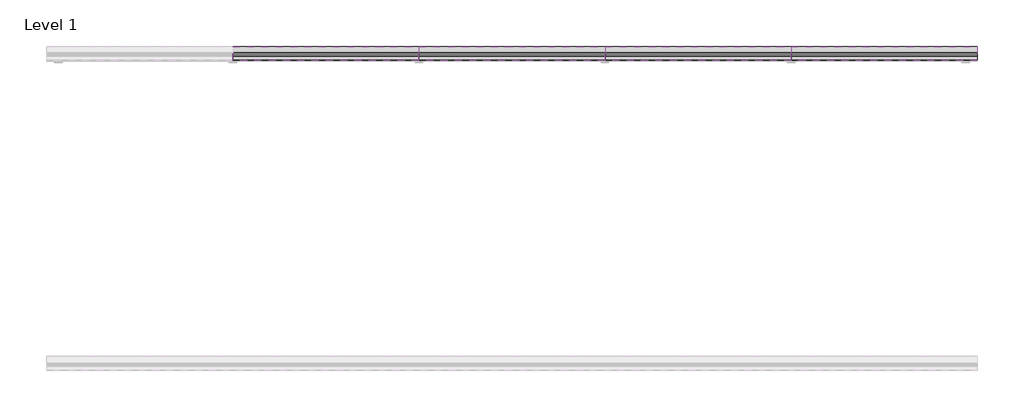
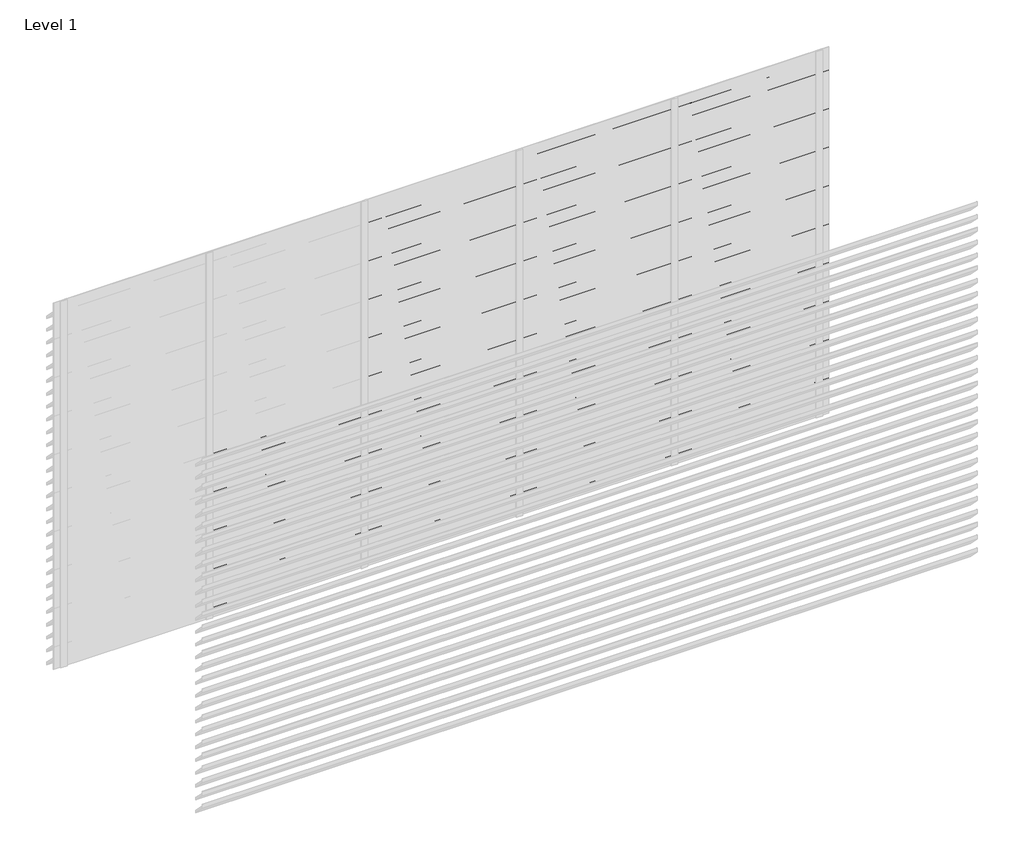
# One storey, part 8 of 8: 97 proxies.
"""IFC4 building model written with IfcOpenShell, lengths in millimetres."""

from ifc_helpers import new_model, si_unit, frame, origin, place, context, project, spatial, polyline, outline, extrude, element, save

model = new_model("IFC4")

# Units and contexts
model_context = context("Model", 3, world=origin())
ifc_project = project(units=[si_unit("LENGTHUNIT", "METRE", prefix="MILLI")], contexts=[model_context])

# Site, building, storey
site = spatial("IfcSite", under=ifc_project)
building = spatial("IfcBuilding", under=site)
storey = spatial("IfcBuildingStorey", under=building, Name="Level 1", Elevation=0.0)

# Proxies
placement = place(None, origin())
element("IfcBuildingElementProxy", 1, Name="Wall Sweeps", at=placement, inside=storey, context=model_context, shape_type="SweptSolid", body=[
    extrude(outline(polyline([(5.0, 1365.0), (5.0, 1352.0), (93.0, 1264.0), (93.0, 1243.0), (3.0, 1333.0), (3.0, 1365.0), (5.0, 1365.0)])), frame((1200.0, 0.0, 0.0), z_axis=(1.0, 0.0, 0.0), x_axis=(0.0, 1.0, 0.0)), (0.0, 0.0, 1.0), 1200.0),
])
element("IfcBuildingElementProxy", 2, Name="Wall Sweeps", at=placement, inside=storey, context=model_context, shape_type="SweptSolid", body=[
    extrude(outline(polyline([(5.0, 1260.0), (5.0, 1247.0), (93.0, 1159.0), (93.0, 1138.0), (3.0, 1228.0), (3.0, 1260.0), (5.0, 1260.0)])), frame((1200.0, 0.0, 0.0), z_axis=(1.0, 0.0, 0.0), x_axis=(0.0, 1.0, 0.0)), (0.0, 0.0, 1.0), 1200.0),
])
element("IfcBuildingElementProxy", 3, Name="Wall Sweeps", at=placement, inside=storey, context=model_context, shape_type="SweptSolid", body=[
    extrude(outline(polyline([(5.0, 1155.0), (5.0, 1142.0), (93.0, 1054.0), (93.0, 1033.0), (3.0, 1123.0), (3.0, 1155.0), (5.0, 1155.0)])), frame((1200.0, 0.0, 0.0), z_axis=(1.0, 0.0, 0.0), x_axis=(0.0, 1.0, 0.0)), (0.0, 0.0, 1.0), 1200.0),
])
element("IfcBuildingElementProxy", 4, Name="Wall Sweeps", at=placement, inside=storey, context=model_context, shape_type="SweptSolid", body=[
    extrude(outline(polyline([(5.0, 1050.0), (5.0, 1037.0), (93.0, 949.0), (93.0, 928.0), (3.0, 1018.0), (3.0, 1050.0), (5.0, 1050.0)])), frame((1200.0, 0.0, 0.0), z_axis=(1.0, 0.0, 0.0), x_axis=(0.0, 1.0, 0.0)), (0.0, 0.0, 1.0), 1200.0),
])
element("IfcBuildingElementProxy", 5, Name="Wall Sweeps", at=placement, inside=storey, context=model_context, shape_type="SweptSolid", body=[
    extrude(outline(polyline([(5.0, 945.0), (5.0, 932.0), (93.0, 844.0), (93.0, 823.0), (3.0, 913.0), (3.0, 945.0), (5.0, 945.0)])), frame((1200.0, 0.0, 0.0), z_axis=(1.0, 0.0, 0.0), x_axis=(0.0, 1.0, 0.0)), (0.0, 0.0, 1.0), 1200.0),
])
element("IfcBuildingElementProxy", 6, Name="Wall Sweeps", at=placement, inside=storey, context=model_context, shape_type="SweptSolid", body=[
    extrude(outline(polyline([(5.0, 840.0), (5.0, 827.0), (93.0, 739.0), (93.0, 718.0), (3.0, 808.0), (3.0, 840.0), (5.0, 840.0)])), frame((1200.0, 0.0, 0.0), z_axis=(1.0, 0.0, 0.0), x_axis=(0.0, 1.0, 0.0)), (0.0, 0.0, 1.0), 1200.0),
])
element("IfcBuildingElementProxy", 7, Name="Wall Sweeps", at=placement, inside=storey, context=model_context, shape_type="SweptSolid", body=[
    extrude(outline(polyline([(5.0, 735.0), (5.0, 722.0), (93.0, 634.0), (93.0, 613.0), (3.0, 703.0), (3.0, 735.0), (5.0, 735.0)])), frame((1200.0, 0.0, 0.0), z_axis=(1.0, 0.0, 0.0), x_axis=(0.0, 1.0, 0.0)), (0.0, 0.0, 1.0), 1200.0),
])
element("IfcBuildingElementProxy", 8, Name="Wall Sweeps", at=placement, inside=storey, context=model_context, shape_type="SweptSolid", body=[
    extrude(outline(polyline([(5.0, 630.0), (5.0, 617.0), (93.0, 529.0), (93.0, 508.0), (3.0, 598.0), (3.0, 630.0), (5.0, 630.0)])), frame((1200.0, 0.0, 0.0), z_axis=(1.0, 0.0, 0.0), x_axis=(0.0, 1.0, 0.0)), (0.0, 0.0, 1.0), 1200.0),
])
element("IfcBuildingElementProxy", 9, Name="Wall Sweeps", at=placement, inside=storey, context=model_context, shape_type="SweptSolid", body=[
    extrude(outline(polyline([(5.0, 525.0), (5.0, 512.0), (93.0, 424.0), (93.0, 403.0), (3.0, 493.0), (3.0, 525.0), (5.0, 525.0)])), frame((1200.0, 0.0, 0.0), z_axis=(1.0, 0.0, 0.0), x_axis=(0.0, 1.0, 0.0)), (0.0, 0.0, 1.0), 1200.0),
])
element("IfcBuildingElementProxy", 10, Name="Wall Sweeps", at=placement, inside=storey, context=model_context, shape_type="SweptSolid", body=[
    extrude(outline(polyline([(5.0, 420.0), (5.0, 407.0), (93.0, 319.0), (93.0, 298.0), (3.0, 388.0), (3.0, 420.0), (5.0, 420.0)])), frame((1200.0, 0.0, 0.0), z_axis=(1.0, 0.0, 0.0), x_axis=(0.0, 1.0, 0.0)), (0.0, 0.0, 1.0), 1200.0),
])
element("IfcBuildingElementProxy", 11, Name="Wall Sweeps", at=placement, inside=storey, context=model_context, shape_type="SweptSolid", body=[
    extrude(outline(polyline([(5.0, 315.0), (5.0, 302.0), (93.0, 214.0), (93.0, 193.0), (3.0, 283.0), (3.0, 315.0), (5.0, 315.0)])), frame((1200.0, 0.0, 0.0), z_axis=(1.0, 0.0, 0.0), x_axis=(0.0, 1.0, 0.0)), (0.0, 0.0, 1.0), 1200.0),
])
element("IfcBuildingElementProxy", 12, Name="Wall Sweeps", at=placement, inside=storey, context=model_context, shape_type="SweptSolid", body=[
    extrude(outline(polyline([(5.0, 210.0), (5.0, 197.0), (93.0, 109.0), (93.0, 88.0), (3.0, 178.0), (3.0, 210.0), (5.0, 210.0)])), frame((1200.0, 0.0, 0.0), z_axis=(1.0, 0.0, 0.0), x_axis=(0.0, 1.0, 0.0)), (0.0, 0.0, 1.0), 1200.0),
])
element("IfcBuildingElementProxy", 13, Name="Wall Sweeps", at=placement, inside=storey, context=model_context, shape_type="SweptSolid", body=[
    extrude(outline(polyline([(5.0, 105.0), (5.0, 92.0), (93.0, 4.0), (93.0, -17.0), (3.0, 73.0), (3.0, 105.0), (5.0, 105.0)])), frame((1200.0, 0.0, 0.0), z_axis=(1.0, 0.0, 0.0), x_axis=(0.0, 1.0, 0.0)), (0.0, 0.0, 1.0), 1200.0),
])
element("IfcBuildingElementProxy", 14, Name="Wall Sweeps", at=placement, inside=storey, context=model_context, shape_type="SweptSolid", body=[
    extrude(outline(polyline([(5.0, 2940.0), (5.0, 2927.0), (93.0, 2839.0), (93.0, 2818.0), (3.0, 2908.0), (3.0, 2940.0), (5.0, 2940.0)])), frame((2400.0, 0.0, 0.0), z_axis=(1.0, 0.0, 0.0), x_axis=(0.0, 1.0, 0.0)), (0.0, 0.0, 1.0), 1200.0),
])
element("IfcBuildingElementProxy", 15, Name="Wall Sweeps", at=placement, inside=storey, context=model_context, shape_type="SweptSolid", body=[
    extrude(outline(polyline([(5.0, 2835.0), (5.0, 2822.0), (93.0, 2734.0), (93.0, 2713.0), (3.0, 2803.0), (3.0, 2835.0), (5.0, 2835.0)])), frame((2400.0, 0.0, 0.0), z_axis=(1.0, 0.0, 0.0), x_axis=(0.0, 1.0, 0.0)), (0.0, 0.0, 1.0), 1200.0),
])
element("IfcBuildingElementProxy", 16, Name="Wall Sweeps", at=placement, inside=storey, context=model_context, shape_type="SweptSolid", body=[
    extrude(outline(polyline([(5.0, 2730.0), (5.0, 2717.0), (93.0, 2629.0), (93.0, 2608.0), (3.0, 2698.0), (3.0, 2730.0), (5.0, 2730.0)])), frame((2400.0, 0.0, 0.0), z_axis=(1.0, 0.0, 0.0), x_axis=(0.0, 1.0, 0.0)), (0.0, 0.0, 1.0), 1200.0),
])
element("IfcBuildingElementProxy", 17, Name="Wall Sweeps", at=placement, inside=storey, context=model_context, shape_type="SweptSolid", body=[
    extrude(outline(polyline([(5.0, 2625.0), (5.0, 2612.0), (93.0, 2524.0), (93.0, 2503.0), (3.0, 2593.0), (3.0, 2625.0), (5.0, 2625.0)])), frame((2400.0, 0.0, 0.0), z_axis=(1.0, 0.0, 0.0), x_axis=(0.0, 1.0, 0.0)), (0.0, 0.0, 1.0), 1200.0),
])
element("IfcBuildingElementProxy", 18, Name="Wall Sweeps", at=placement, inside=storey, context=model_context, shape_type="SweptSolid", body=[
    extrude(outline(polyline([(5.0, 2520.0), (5.0, 2507.0), (93.0, 2419.0), (93.0, 2398.0), (3.0, 2488.0), (3.0, 2520.0), (5.0, 2520.0)])), frame((2400.0, 0.0, 0.0), z_axis=(1.0, 0.0, 0.0), x_axis=(0.0, 1.0, 0.0)), (0.0, 0.0, 1.0), 1200.0),
])
element("IfcBuildingElementProxy", 19, Name="Wall Sweeps", at=placement, inside=storey, context=model_context, shape_type="SweptSolid", body=[
    extrude(outline(polyline([(5.0, 2415.0), (5.0, 2402.0), (93.0, 2314.0), (93.0, 2293.0), (3.0, 2383.0), (3.0, 2415.0), (5.0, 2415.0)])), frame((2400.0, 0.0, 0.0), z_axis=(1.0, 0.0, 0.0), x_axis=(0.0, 1.0, 0.0)), (0.0, 0.0, 1.0), 1200.0),
])
element("IfcBuildingElementProxy", 20, Name="Wall Sweeps", at=placement, inside=storey, context=model_context, shape_type="SweptSolid", body=[
    extrude(outline(polyline([(5.0, 2310.0), (5.0, 2297.0), (93.0, 2209.0), (93.0, 2188.0), (3.0, 2278.0), (3.0, 2310.0), (5.0, 2310.0)])), frame((2400.0, 0.0, 0.0), z_axis=(1.0, 0.0, 0.0), x_axis=(0.0, 1.0, 0.0)), (0.0, 0.0, 1.0), 1200.0),
])
element("IfcBuildingElementProxy", 21, Name="Wall Sweeps", at=placement, inside=storey, context=model_context, shape_type="SweptSolid", body=[
    extrude(outline(polyline([(5.0, 2205.0), (5.0, 2192.0), (93.0, 2104.0), (93.0, 2083.0), (3.0, 2173.0), (3.0, 2205.0), (5.0, 2205.0)])), frame((2400.0, 0.0, 0.0), z_axis=(1.0, 0.0, 0.0), x_axis=(0.0, 1.0, 0.0)), (0.0, 0.0, 1.0), 1200.0),
])
element("IfcBuildingElementProxy", 22, Name="Wall Sweeps", at=placement, inside=storey, context=model_context, shape_type="SweptSolid", body=[
    extrude(outline(polyline([(5.0, 2100.0), (5.0, 2087.0), (93.0, 1999.0), (93.0, 1978.0), (3.0, 2068.0), (3.0, 2100.0), (5.0, 2100.0)])), frame((2400.0, 0.0, 0.0), z_axis=(1.0, 0.0, 0.0), x_axis=(0.0, 1.0, 0.0)), (0.0, 0.0, 1.0), 1200.0),
])
element("IfcBuildingElementProxy", 23, Name="Wall Sweeps", at=placement, inside=storey, context=model_context, shape_type="SweptSolid", body=[
    extrude(outline(polyline([(5.0, 1995.0), (5.0, 1982.0), (93.0, 1894.0), (93.0, 1873.0), (3.0, 1963.0), (3.0, 1995.0), (5.0, 1995.0)])), frame((2400.0, 0.0, 0.0), z_axis=(1.0, 0.0, 0.0), x_axis=(0.0, 1.0, 0.0)), (0.0, 0.0, 1.0), 1200.0),
])
element("IfcBuildingElementProxy", 24, Name="Wall Sweeps", at=placement, inside=storey, context=model_context, shape_type="SweptSolid", body=[
    extrude(outline(polyline([(5.0, 1890.0), (5.0, 1877.0), (93.0, 1789.0), (93.0, 1768.0), (3.0, 1858.0), (3.0, 1890.0), (5.0, 1890.0)])), frame((2400.0, 0.0, 0.0), z_axis=(1.0, 0.0, 0.0), x_axis=(0.0, 1.0, 0.0)), (0.0, 0.0, 1.0), 1200.0),
])
element("IfcBuildingElementProxy", 25, Name="Wall Sweeps", at=placement, inside=storey, context=model_context, shape_type="SweptSolid", body=[
    extrude(outline(polyline([(5.0, 1785.0), (5.0, 1772.0), (93.0, 1684.0), (93.0, 1663.0), (3.0, 1753.0), (3.0, 1785.0), (5.0, 1785.0)])), frame((2400.0, 0.0, 0.0), z_axis=(1.0, 0.0, 0.0), x_axis=(0.0, 1.0, 0.0)), (0.0, 0.0, 1.0), 1200.0),
])
element("IfcBuildingElementProxy", 26, Name="Wall Sweeps", at=placement, inside=storey, context=model_context, shape_type="SweptSolid", body=[
    extrude(outline(polyline([(5.0, 1680.0), (5.0, 1667.0), (93.0, 1579.0), (93.0, 1558.0), (3.0, 1648.0), (3.0, 1680.0), (5.0, 1680.0)])), frame((2400.0, 0.0, 0.0), z_axis=(1.0, 0.0, 0.0), x_axis=(0.0, 1.0, 0.0)), (0.0, 0.0, 1.0), 1200.0),
])
element("IfcBuildingElementProxy", 27, Name="Wall Sweeps", at=placement, inside=storey, context=model_context, shape_type="SweptSolid", body=[
    extrude(outline(polyline([(5.0, 1575.0), (5.0, 1562.0), (93.0, 1474.0), (93.0, 1453.0), (3.0, 1543.0), (3.0, 1575.0), (5.0, 1575.0)])), frame((2400.0, 0.0, 0.0), z_axis=(1.0, 0.0, 0.0), x_axis=(0.0, 1.0, 0.0)), (0.0, 0.0, 1.0), 1200.0),
])
element("IfcBuildingElementProxy", 28, Name="Wall Sweeps", at=placement, inside=storey, context=model_context, shape_type="SweptSolid", body=[
    extrude(outline(polyline([(5.0, 1470.0), (5.0, 1457.0), (93.0, 1369.0), (93.0, 1348.0), (3.0, 1438.0), (3.0, 1470.0), (5.0, 1470.0)])), frame((2400.0, 0.0, 0.0), z_axis=(1.0, 0.0, 0.0), x_axis=(0.0, 1.0, 0.0)), (0.0, 0.0, 1.0), 1200.0),
])
element("IfcBuildingElementProxy", 29, Name="Wall Sweeps", at=placement, inside=storey, context=model_context, shape_type="SweptSolid", body=[
    extrude(outline(polyline([(5.0, 1365.0), (5.0, 1352.0), (93.0, 1264.0), (93.0, 1243.0), (3.0, 1333.0), (3.0, 1365.0), (5.0, 1365.0)])), frame((2400.0, 0.0, 0.0), z_axis=(1.0, 0.0, 0.0), x_axis=(0.0, 1.0, 0.0)), (0.0, 0.0, 1.0), 1200.0),
])
element("IfcBuildingElementProxy", 30, Name="Wall Sweeps", at=placement, inside=storey, context=model_context, shape_type="SweptSolid", body=[
    extrude(outline(polyline([(5.0, 1260.0), (5.0, 1247.0), (93.0, 1159.0), (93.0, 1138.0), (3.0, 1228.0), (3.0, 1260.0), (5.0, 1260.0)])), frame((2400.0, 0.0, 0.0), z_axis=(1.0, 0.0, 0.0), x_axis=(0.0, 1.0, 0.0)), (0.0, 0.0, 1.0), 1200.0),
])
element("IfcBuildingElementProxy", 31, Name="Wall Sweeps", at=placement, inside=storey, context=model_context, shape_type="SweptSolid", body=[
    extrude(outline(polyline([(5.0, 1155.0), (5.0, 1142.0), (93.0, 1054.0), (93.0, 1033.0), (3.0, 1123.0), (3.0, 1155.0), (5.0, 1155.0)])), frame((2400.0, 0.0, 0.0), z_axis=(1.0, 0.0, 0.0), x_axis=(0.0, 1.0, 0.0)), (0.0, 0.0, 1.0), 1200.0),
])
element("IfcBuildingElementProxy", 32, Name="Wall Sweeps", at=placement, inside=storey, context=model_context, shape_type="SweptSolid", body=[
    extrude(outline(polyline([(5.0, 1050.0), (5.0, 1037.0), (93.0, 949.0), (93.0, 928.0), (3.0, 1018.0), (3.0, 1050.0), (5.0, 1050.0)])), frame((2400.0, 0.0, 0.0), z_axis=(1.0, 0.0, 0.0), x_axis=(0.0, 1.0, 0.0)), (0.0, 0.0, 1.0), 1200.0),
])
element("IfcBuildingElementProxy", 33, Name="Wall Sweeps", at=placement, inside=storey, context=model_context, shape_type="SweptSolid", body=[
    extrude(outline(polyline([(5.0, 945.0), (5.0, 932.0), (93.0, 844.0), (93.0, 823.0), (3.0, 913.0), (3.0, 945.0), (5.0, 945.0)])), frame((2400.0, 0.0, 0.0), z_axis=(1.0, 0.0, 0.0), x_axis=(0.0, 1.0, 0.0)), (0.0, 0.0, 1.0), 1200.0),
])
element("IfcBuildingElementProxy", 34, Name="Wall Sweeps", at=placement, inside=storey, context=model_context, shape_type="SweptSolid", body=[
    extrude(outline(polyline([(5.0, 840.0), (5.0, 827.0), (93.0, 739.0), (93.0, 718.0), (3.0, 808.0), (3.0, 840.0), (5.0, 840.0)])), frame((2400.0, 0.0, 0.0), z_axis=(1.0, 0.0, 0.0), x_axis=(0.0, 1.0, 0.0)), (0.0, 0.0, 1.0), 1200.0),
])
element("IfcBuildingElementProxy", 35, Name="Wall Sweeps", at=placement, inside=storey, context=model_context, shape_type="SweptSolid", body=[
    extrude(outline(polyline([(5.0, 735.0), (5.0, 722.0), (93.0, 634.0), (93.0, 613.0), (3.0, 703.0), (3.0, 735.0), (5.0, 735.0)])), frame((2400.0, 0.0, 0.0), z_axis=(1.0, 0.0, 0.0), x_axis=(0.0, 1.0, 0.0)), (0.0, 0.0, 1.0), 1200.0),
])
element("IfcBuildingElementProxy", 36, Name="Wall Sweeps", at=placement, inside=storey, context=model_context, shape_type="SweptSolid", body=[
    extrude(outline(polyline([(5.0, 630.0), (5.0, 617.0), (93.0, 529.0), (93.0, 508.0), (3.0, 598.0), (3.0, 630.0), (5.0, 630.0)])), frame((2400.0, 0.0, 0.0), z_axis=(1.0, 0.0, 0.0), x_axis=(0.0, 1.0, 0.0)), (0.0, 0.0, 1.0), 1200.0),
])
element("IfcBuildingElementProxy", 37, Name="Wall Sweeps", at=placement, inside=storey, context=model_context, shape_type="SweptSolid", body=[
    extrude(outline(polyline([(5.0, 525.0), (5.0, 512.0), (93.0, 424.0), (93.0, 403.0), (3.0, 493.0), (3.0, 525.0), (5.0, 525.0)])), frame((2400.0, 0.0, 0.0), z_axis=(1.0, 0.0, 0.0), x_axis=(0.0, 1.0, 0.0)), (0.0, 0.0, 1.0), 1200.0),
])
element("IfcBuildingElementProxy", 38, Name="Wall Sweeps", at=placement, inside=storey, context=model_context, shape_type="SweptSolid", body=[
    extrude(outline(polyline([(5.0, 420.0), (5.0, 407.0), (93.0, 319.0), (93.0, 298.0), (3.0, 388.0), (3.0, 420.0), (5.0, 420.0)])), frame((2400.0, 0.0, 0.0), z_axis=(1.0, 0.0, 0.0), x_axis=(0.0, 1.0, 0.0)), (0.0, 0.0, 1.0), 1200.0),
])
element("IfcBuildingElementProxy", 39, Name="Wall Sweeps", at=placement, inside=storey, context=model_context, shape_type="SweptSolid", body=[
    extrude(outline(polyline([(5.0, 315.0), (5.0, 302.0), (93.0, 214.0), (93.0, 193.0), (3.0, 283.0), (3.0, 315.0), (5.0, 315.0)])), frame((2400.0, 0.0, 0.0), z_axis=(1.0, 0.0, 0.0), x_axis=(0.0, 1.0, 0.0)), (0.0, 0.0, 1.0), 1200.0),
])
element("IfcBuildingElementProxy", 40, Name="Wall Sweeps", at=placement, inside=storey, context=model_context, shape_type="SweptSolid", body=[
    extrude(outline(polyline([(5.0, 210.0), (5.0, 197.0), (93.0, 109.0), (93.0, 88.0), (3.0, 178.0), (3.0, 210.0), (5.0, 210.0)])), frame((2400.0, 0.0, 0.0), z_axis=(1.0, 0.0, 0.0), x_axis=(0.0, 1.0, 0.0)), (0.0, 0.0, 1.0), 1200.0),
])
element("IfcBuildingElementProxy", 41, Name="Wall Sweeps", at=placement, inside=storey, context=model_context, shape_type="SweptSolid", body=[
    extrude(outline(polyline([(5.0, 105.0), (5.0, 92.0), (93.0, 4.0), (93.0, -17.0), (3.0, 73.0), (3.0, 105.0), (5.0, 105.0)])), frame((2400.0, 0.0, 0.0), z_axis=(1.0, 0.0, 0.0), x_axis=(0.0, 1.0, 0.0)), (0.0, 0.0, 1.0), 1200.0),
])
element("IfcBuildingElementProxy", 42, Name="Wall Sweeps", at=placement, inside=storey, context=model_context, shape_type="SweptSolid", body=[
    extrude(outline(polyline([(5.0, 2940.0), (5.0, 2927.0), (93.0, 2839.0), (93.0, 2818.0), (3.0, 2908.0), (3.0, 2940.0), (5.0, 2940.0)])), frame((3600.0, 0.0, 0.0), z_axis=(1.0, 0.0, 0.0), x_axis=(0.0, 1.0, 0.0)), (0.0, 0.0, 1.0), 1200.0),
])
element("IfcBuildingElementProxy", 43, Name="Wall Sweeps", at=placement, inside=storey, context=model_context, shape_type="SweptSolid", body=[
    extrude(outline(polyline([(5.0, 2835.0), (5.0, 2822.0), (93.0, 2734.0), (93.0, 2713.0), (3.0, 2803.0), (3.0, 2835.0), (5.0, 2835.0)])), frame((3600.0, 0.0, 0.0), z_axis=(1.0, 0.0, 0.0), x_axis=(0.0, 1.0, 0.0)), (0.0, 0.0, 1.0), 1200.0),
])
element("IfcBuildingElementProxy", 44, Name="Wall Sweeps", at=placement, inside=storey, context=model_context, shape_type="SweptSolid", body=[
    extrude(outline(polyline([(5.0, 2730.0), (5.0, 2717.0), (93.0, 2629.0), (93.0, 2608.0), (3.0, 2698.0), (3.0, 2730.0), (5.0, 2730.0)])), frame((3600.0, 0.0, 0.0), z_axis=(1.0, 0.0, 0.0), x_axis=(0.0, 1.0, 0.0)), (0.0, 0.0, 1.0), 1200.0),
])
element("IfcBuildingElementProxy", 45, Name="Wall Sweeps", at=placement, inside=storey, context=model_context, shape_type="SweptSolid", body=[
    extrude(outline(polyline([(5.0, 2625.0), (5.0, 2612.0), (93.0, 2524.0), (93.0, 2503.0), (3.0, 2593.0), (3.0, 2625.0), (5.0, 2625.0)])), frame((3600.0, 0.0, 0.0), z_axis=(1.0, 0.0, 0.0), x_axis=(0.0, 1.0, 0.0)), (0.0, 0.0, 1.0), 1200.0),
])
element("IfcBuildingElementProxy", 46, Name="Wall Sweeps", at=placement, inside=storey, context=model_context, shape_type="SweptSolid", body=[
    extrude(outline(polyline([(5.0, 2520.0), (5.0, 2507.0), (93.0, 2419.0), (93.0, 2398.0), (3.0, 2488.0), (3.0, 2520.0), (5.0, 2520.0)])), frame((3600.0, 0.0, 0.0), z_axis=(1.0, 0.0, 0.0), x_axis=(0.0, 1.0, 0.0)), (0.0, 0.0, 1.0), 1200.0),
])
element("IfcBuildingElementProxy", 47, Name="Wall Sweeps", at=placement, inside=storey, context=model_context, shape_type="SweptSolid", body=[
    extrude(outline(polyline([(5.0, 2415.0), (5.0, 2402.0), (93.0, 2314.0), (93.0, 2293.0), (3.0, 2383.0), (3.0, 2415.0), (5.0, 2415.0)])), frame((3600.0, 0.0, 0.0), z_axis=(1.0, 0.0, 0.0), x_axis=(0.0, 1.0, 0.0)), (0.0, 0.0, 1.0), 1200.0),
])
element("IfcBuildingElementProxy", 48, Name="Wall Sweeps", at=placement, inside=storey, context=model_context, shape_type="SweptSolid", body=[
    extrude(outline(polyline([(5.0, 2310.0), (5.0, 2297.0), (93.0, 2209.0), (93.0, 2188.0), (3.0, 2278.0), (3.0, 2310.0), (5.0, 2310.0)])), frame((3600.0, 0.0, 0.0), z_axis=(1.0, 0.0, 0.0), x_axis=(0.0, 1.0, 0.0)), (0.0, 0.0, 1.0), 1200.0),
])
element("IfcBuildingElementProxy", 49, Name="Wall Sweeps", at=placement, inside=storey, context=model_context, shape_type="SweptSolid", body=[
    extrude(outline(polyline([(5.0, 2205.0), (5.0, 2192.0), (93.0, 2104.0), (93.0, 2083.0), (3.0, 2173.0), (3.0, 2205.0), (5.0, 2205.0)])), frame((3600.0, 0.0, 0.0), z_axis=(1.0, 0.0, 0.0), x_axis=(0.0, 1.0, 0.0)), (0.0, 0.0, 1.0), 1200.0),
])
element("IfcBuildingElementProxy", 50, Name="Wall Sweeps", at=placement, inside=storey, context=model_context, shape_type="SweptSolid", body=[
    extrude(outline(polyline([(5.0, 2100.0), (5.0, 2087.0), (93.0, 1999.0), (93.0, 1978.0), (3.0, 2068.0), (3.0, 2100.0), (5.0, 2100.0)])), frame((3600.0, 0.0, 0.0), z_axis=(1.0, 0.0, 0.0), x_axis=(0.0, 1.0, 0.0)), (0.0, 0.0, 1.0), 1200.0),
])
element("IfcBuildingElementProxy", 51, Name="Wall Sweeps", at=placement, inside=storey, context=model_context, shape_type="SweptSolid", body=[
    extrude(outline(polyline([(5.0, 1995.0), (5.0, 1982.0), (93.0, 1894.0), (93.0, 1873.0), (3.0, 1963.0), (3.0, 1995.0), (5.0, 1995.0)])), frame((3600.0, 0.0, 0.0), z_axis=(1.0, 0.0, 0.0), x_axis=(0.0, 1.0, 0.0)), (0.0, 0.0, 1.0), 1200.0),
])
element("IfcBuildingElementProxy", 52, Name="Wall Sweeps", at=placement, inside=storey, context=model_context, shape_type="SweptSolid", body=[
    extrude(outline(polyline([(5.0, 1890.0), (5.0, 1877.0), (93.0, 1789.0), (93.0, 1768.0), (3.0, 1858.0), (3.0, 1890.0), (5.0, 1890.0)])), frame((3600.0, 0.0, 0.0), z_axis=(1.0, 0.0, 0.0), x_axis=(0.0, 1.0, 0.0)), (0.0, 0.0, 1.0), 1200.0),
])
element("IfcBuildingElementProxy", 53, Name="Wall Sweeps", at=placement, inside=storey, context=model_context, shape_type="SweptSolid", body=[
    extrude(outline(polyline([(5.0, 1785.0), (5.0, 1772.0), (93.0, 1684.0), (93.0, 1663.0), (3.0, 1753.0), (3.0, 1785.0), (5.0, 1785.0)])), frame((3600.0, 0.0, 0.0), z_axis=(1.0, 0.0, 0.0), x_axis=(0.0, 1.0, 0.0)), (0.0, 0.0, 1.0), 1200.0),
])
element("IfcBuildingElementProxy", 54, Name="Wall Sweeps", at=placement, inside=storey, context=model_context, shape_type="SweptSolid", body=[
    extrude(outline(polyline([(5.0, 1680.0), (5.0, 1667.0), (93.0, 1579.0), (93.0, 1558.0), (3.0, 1648.0), (3.0, 1680.0), (5.0, 1680.0)])), frame((3600.0, 0.0, 0.0), z_axis=(1.0, 0.0, 0.0), x_axis=(0.0, 1.0, 0.0)), (0.0, 0.0, 1.0), 1200.0),
])
element("IfcBuildingElementProxy", 55, Name="Wall Sweeps", at=placement, inside=storey, context=model_context, shape_type="SweptSolid", body=[
    extrude(outline(polyline([(5.0, 1575.0), (5.0, 1562.0), (93.0, 1474.0), (93.0, 1453.0), (3.0, 1543.0), (3.0, 1575.0), (5.0, 1575.0)])), frame((3600.0, 0.0, 0.0), z_axis=(1.0, 0.0, 0.0), x_axis=(0.0, 1.0, 0.0)), (0.0, 0.0, 1.0), 1200.0),
])
element("IfcBuildingElementProxy", 56, Name="Wall Sweeps", at=placement, inside=storey, context=model_context, shape_type="SweptSolid", body=[
    extrude(outline(polyline([(5.0, 1470.0), (5.0, 1457.0), (93.0, 1369.0), (93.0, 1348.0), (3.0, 1438.0), (3.0, 1470.0), (5.0, 1470.0)])), frame((3600.0, 0.0, 0.0), z_axis=(1.0, 0.0, 0.0), x_axis=(0.0, 1.0, 0.0)), (0.0, 0.0, 1.0), 1200.0),
])
element("IfcBuildingElementProxy", 57, Name="Wall Sweeps", at=placement, inside=storey, context=model_context, shape_type="SweptSolid", body=[
    extrude(outline(polyline([(5.0, 1365.0), (5.0, 1352.0), (93.0, 1264.0), (93.0, 1243.0), (3.0, 1333.0), (3.0, 1365.0), (5.0, 1365.0)])), frame((3600.0, 0.0, 0.0), z_axis=(1.0, 0.0, 0.0), x_axis=(0.0, 1.0, 0.0)), (0.0, 0.0, 1.0), 1200.0),
])
element("IfcBuildingElementProxy", 58, Name="Wall Sweeps", at=placement, inside=storey, context=model_context, shape_type="SweptSolid", body=[
    extrude(outline(polyline([(5.0, 1260.0), (5.0, 1247.0), (93.0, 1159.0), (93.0, 1138.0), (3.0, 1228.0), (3.0, 1260.0), (5.0, 1260.0)])), frame((3600.0, 0.0, 0.0), z_axis=(1.0, 0.0, 0.0), x_axis=(0.0, 1.0, 0.0)), (0.0, 0.0, 1.0), 1200.0),
])
element("IfcBuildingElementProxy", 59, Name="Wall Sweeps", at=placement, inside=storey, context=model_context, shape_type="SweptSolid", body=[
    extrude(outline(polyline([(5.0, 1155.0), (5.0, 1142.0), (93.0, 1054.0), (93.0, 1033.0), (3.0, 1123.0), (3.0, 1155.0), (5.0, 1155.0)])), frame((3600.0, 0.0, 0.0), z_axis=(1.0, 0.0, 0.0), x_axis=(0.0, 1.0, 0.0)), (0.0, 0.0, 1.0), 1200.0),
])
element("IfcBuildingElementProxy", 60, Name="Wall Sweeps", at=placement, inside=storey, context=model_context, shape_type="SweptSolid", body=[
    extrude(outline(polyline([(5.0, 1050.0), (5.0, 1037.0), (93.0, 949.0), (93.0, 928.0), (3.0, 1018.0), (3.0, 1050.0), (5.0, 1050.0)])), frame((3600.0, 0.0, 0.0), z_axis=(1.0, 0.0, 0.0), x_axis=(0.0, 1.0, 0.0)), (0.0, 0.0, 1.0), 1200.0),
])
element("IfcBuildingElementProxy", 61, Name="Wall Sweeps", at=placement, inside=storey, context=model_context, shape_type="SweptSolid", body=[
    extrude(outline(polyline([(5.0, 945.0), (5.0, 932.0), (93.0, 844.0), (93.0, 823.0), (3.0, 913.0), (3.0, 945.0), (5.0, 945.0)])), frame((3600.0, 0.0, 0.0), z_axis=(1.0, 0.0, 0.0), x_axis=(0.0, 1.0, 0.0)), (0.0, 0.0, 1.0), 1200.0),
])
element("IfcBuildingElementProxy", 62, Name="Wall Sweeps", at=placement, inside=storey, context=model_context, shape_type="SweptSolid", body=[
    extrude(outline(polyline([(5.0, 840.0), (5.0, 827.0), (93.0, 739.0), (93.0, 718.0), (3.0, 808.0), (3.0, 840.0), (5.0, 840.0)])), frame((3600.0, 0.0, 0.0), z_axis=(1.0, 0.0, 0.0), x_axis=(0.0, 1.0, 0.0)), (0.0, 0.0, 1.0), 1200.0),
])
element("IfcBuildingElementProxy", 63, Name="Wall Sweeps", at=placement, inside=storey, context=model_context, shape_type="SweptSolid", body=[
    extrude(outline(polyline([(5.0, 735.0), (5.0, 722.0), (93.0, 634.0), (93.0, 613.0), (3.0, 703.0), (3.0, 735.0), (5.0, 735.0)])), frame((3600.0, 0.0, 0.0), z_axis=(1.0, 0.0, 0.0), x_axis=(0.0, 1.0, 0.0)), (0.0, 0.0, 1.0), 1200.0),
])
element("IfcBuildingElementProxy", 64, Name="Wall Sweeps", at=placement, inside=storey, context=model_context, shape_type="SweptSolid", body=[
    extrude(outline(polyline([(5.0, 630.0), (5.0, 617.0), (93.0, 529.0), (93.0, 508.0), (3.0, 598.0), (3.0, 630.0), (5.0, 630.0)])), frame((3600.0, 0.0, 0.0), z_axis=(1.0, 0.0, 0.0), x_axis=(0.0, 1.0, 0.0)), (0.0, 0.0, 1.0), 1200.0),
])
element("IfcBuildingElementProxy", 65, Name="Wall Sweeps", at=placement, inside=storey, context=model_context, shape_type="SweptSolid", body=[
    extrude(outline(polyline([(5.0, 525.0), (5.0, 512.0), (93.0, 424.0), (93.0, 403.0), (3.0, 493.0), (3.0, 525.0), (5.0, 525.0)])), frame((3600.0, 0.0, 0.0), z_axis=(1.0, 0.0, 0.0), x_axis=(0.0, 1.0, 0.0)), (0.0, 0.0, 1.0), 1200.0),
])
element("IfcBuildingElementProxy", 66, Name="Wall Sweeps", at=placement, inside=storey, context=model_context, shape_type="SweptSolid", body=[
    extrude(outline(polyline([(5.0, 420.0), (5.0, 407.0), (93.0, 319.0), (93.0, 298.0), (3.0, 388.0), (3.0, 420.0), (5.0, 420.0)])), frame((3600.0, 0.0, 0.0), z_axis=(1.0, 0.0, 0.0), x_axis=(0.0, 1.0, 0.0)), (0.0, 0.0, 1.0), 1200.0),
])
element("IfcBuildingElementProxy", 67, Name="Wall Sweeps", at=placement, inside=storey, context=model_context, shape_type="SweptSolid", body=[
    extrude(outline(polyline([(5.0, 315.0), (5.0, 302.0), (93.0, 214.0), (93.0, 193.0), (3.0, 283.0), (3.0, 315.0), (5.0, 315.0)])), frame((3600.0, 0.0, 0.0), z_axis=(1.0, 0.0, 0.0), x_axis=(0.0, 1.0, 0.0)), (0.0, 0.0, 1.0), 1200.0),
])
element("IfcBuildingElementProxy", 68, Name="Wall Sweeps", at=placement, inside=storey, context=model_context, shape_type="SweptSolid", body=[
    extrude(outline(polyline([(5.0, 210.0), (5.0, 197.0), (93.0, 109.0), (93.0, 88.0), (3.0, 178.0), (3.0, 210.0), (5.0, 210.0)])), frame((3600.0, 0.0, 0.0), z_axis=(1.0, 0.0, 0.0), x_axis=(0.0, 1.0, 0.0)), (0.0, 0.0, 1.0), 1200.0),
])
element("IfcBuildingElementProxy", 69, Name="Wall Sweeps", at=placement, inside=storey, context=model_context, shape_type="SweptSolid", body=[
    extrude(outline(polyline([(5.0, 105.0), (5.0, 92.0), (93.0, 4.0), (93.0, -17.0), (3.0, 73.0), (3.0, 105.0), (5.0, 105.0)])), frame((3600.0, 0.0, 0.0), z_axis=(1.0, 0.0, 0.0), x_axis=(0.0, 1.0, 0.0)), (0.0, 0.0, 1.0), 1200.0),
])
element("IfcBuildingElementProxy", 70, Name="Wall Sweeps", at=placement, inside=storey, context=model_context, shape_type="SweptSolid", body=[
    extrude(outline(polyline([(5.0, 2940.0), (5.0, 2927.0), (93.0, 2839.0), (93.0, 2818.0), (3.0, 2908.0), (3.0, 2940.0), (5.0, 2940.0)])), frame((4800.0, 0.0, 0.0), z_axis=(1.0, 0.0, 0.0), x_axis=(0.0, 1.0, 0.0)), (0.0, 0.0, 1.0), 1200.0),
])
element("IfcBuildingElementProxy", 71, Name="Wall Sweeps", at=placement, inside=storey, context=model_context, shape_type="SweptSolid", body=[
    extrude(outline(polyline([(5.0, 2835.0), (5.0, 2822.0), (93.0, 2734.0), (93.0, 2713.0), (3.0, 2803.0), (3.0, 2835.0), (5.0, 2835.0)])), frame((4800.0, 0.0, 0.0), z_axis=(1.0, 0.0, 0.0), x_axis=(0.0, 1.0, 0.0)), (0.0, 0.0, 1.0), 1200.0),
])
element("IfcBuildingElementProxy", 72, Name="Wall Sweeps", at=placement, inside=storey, context=model_context, shape_type="SweptSolid", body=[
    extrude(outline(polyline([(5.0, 2730.0), (5.0, 2717.0), (93.0, 2629.0), (93.0, 2608.0), (3.0, 2698.0), (3.0, 2730.0), (5.0, 2730.0)])), frame((4800.0, 0.0, 0.0), z_axis=(1.0, 0.0, 0.0), x_axis=(0.0, 1.0, 0.0)), (0.0, 0.0, 1.0), 1200.0),
])
element("IfcBuildingElementProxy", 73, Name="Wall Sweeps", at=placement, inside=storey, context=model_context, shape_type="SweptSolid", body=[
    extrude(outline(polyline([(5.0, 2625.0), (5.0, 2612.0), (93.0, 2524.0), (93.0, 2503.0), (3.0, 2593.0), (3.0, 2625.0), (5.0, 2625.0)])), frame((4800.0, 0.0, 0.0), z_axis=(1.0, 0.0, 0.0), x_axis=(0.0, 1.0, 0.0)), (0.0, 0.0, 1.0), 1200.0),
])
element("IfcBuildingElementProxy", 74, Name="Wall Sweeps", at=placement, inside=storey, context=model_context, shape_type="SweptSolid", body=[
    extrude(outline(polyline([(5.0, 2520.0), (5.0, 2507.0), (93.0, 2419.0), (93.0, 2398.0), (3.0, 2488.0), (3.0, 2520.0), (5.0, 2520.0)])), frame((4800.0, 0.0, 0.0), z_axis=(1.0, 0.0, 0.0), x_axis=(0.0, 1.0, 0.0)), (0.0, 0.0, 1.0), 1200.0),
])
element("IfcBuildingElementProxy", 75, Name="Wall Sweeps", at=placement, inside=storey, context=model_context, shape_type="SweptSolid", body=[
    extrude(outline(polyline([(5.0, 2415.0), (5.0, 2402.0), (93.0, 2314.0), (93.0, 2293.0), (3.0, 2383.0), (3.0, 2415.0), (5.0, 2415.0)])), frame((4800.0, 0.0, 0.0), z_axis=(1.0, 0.0, 0.0), x_axis=(0.0, 1.0, 0.0)), (0.0, 0.0, 1.0), 1200.0),
])
element("IfcBuildingElementProxy", 76, Name="Wall Sweeps", at=placement, inside=storey, context=model_context, shape_type="SweptSolid", body=[
    extrude(outline(polyline([(5.0, 2310.0), (5.0, 2297.0), (93.0, 2209.0), (93.0, 2188.0), (3.0, 2278.0), (3.0, 2310.0), (5.0, 2310.0)])), frame((4800.0, 0.0, 0.0), z_axis=(1.0, 0.0, 0.0), x_axis=(0.0, 1.0, 0.0)), (0.0, 0.0, 1.0), 1200.0),
])
element("IfcBuildingElementProxy", 77, Name="Wall Sweeps", at=placement, inside=storey, context=model_context, shape_type="SweptSolid", body=[
    extrude(outline(polyline([(5.0, 2205.0), (5.0, 2192.0), (93.0, 2104.0), (93.0, 2083.0), (3.0, 2173.0), (3.0, 2205.0), (5.0, 2205.0)])), frame((4800.0, 0.0, 0.0), z_axis=(1.0, 0.0, 0.0), x_axis=(0.0, 1.0, 0.0)), (0.0, 0.0, 1.0), 1200.0),
])
element("IfcBuildingElementProxy", 78, Name="Wall Sweeps", at=placement, inside=storey, context=model_context, shape_type="SweptSolid", body=[
    extrude(outline(polyline([(5.0, 2100.0), (5.0, 2087.0), (93.0, 1999.0), (93.0, 1978.0), (3.0, 2068.0), (3.0, 2100.0), (5.0, 2100.0)])), frame((4800.0, 0.0, 0.0), z_axis=(1.0, 0.0, 0.0), x_axis=(0.0, 1.0, 0.0)), (0.0, 0.0, 1.0), 1200.0),
])
element("IfcBuildingElementProxy", 79, Name="Wall Sweeps", at=placement, inside=storey, context=model_context, shape_type="SweptSolid", body=[
    extrude(outline(polyline([(5.0, 1995.0), (5.0, 1982.0), (93.0, 1894.0), (93.0, 1873.0), (3.0, 1963.0), (3.0, 1995.0), (5.0, 1995.0)])), frame((4800.0, 0.0, 0.0), z_axis=(1.0, 0.0, 0.0), x_axis=(0.0, 1.0, 0.0)), (0.0, 0.0, 1.0), 1200.0),
])
element("IfcBuildingElementProxy", 80, Name="Wall Sweeps", at=placement, inside=storey, context=model_context, shape_type="SweptSolid", body=[
    extrude(outline(polyline([(5.0, 1890.0), (5.0, 1877.0), (93.0, 1789.0), (93.0, 1768.0), (3.0, 1858.0), (3.0, 1890.0), (5.0, 1890.0)])), frame((4800.0, 0.0, 0.0), z_axis=(1.0, 0.0, 0.0), x_axis=(0.0, 1.0, 0.0)), (0.0, 0.0, 1.0), 1200.0),
])
element("IfcBuildingElementProxy", 81, Name="Wall Sweeps", at=placement, inside=storey, context=model_context, shape_type="SweptSolid", body=[
    extrude(outline(polyline([(5.0, 1785.0), (5.0, 1772.0), (93.0, 1684.0), (93.0, 1663.0), (3.0, 1753.0), (3.0, 1785.0), (5.0, 1785.0)])), frame((4800.0, 0.0, 0.0), z_axis=(1.0, 0.0, 0.0), x_axis=(0.0, 1.0, 0.0)), (0.0, 0.0, 1.0), 1200.0),
])
element("IfcBuildingElementProxy", 82, Name="Wall Sweeps", at=placement, inside=storey, context=model_context, shape_type="SweptSolid", body=[
    extrude(outline(polyline([(5.0, 1680.0), (5.0, 1667.0), (93.0, 1579.0), (93.0, 1558.0), (3.0, 1648.0), (3.0, 1680.0), (5.0, 1680.0)])), frame((4800.0, 0.0, 0.0), z_axis=(1.0, 0.0, 0.0), x_axis=(0.0, 1.0, 0.0)), (0.0, 0.0, 1.0), 1200.0),
])
element("IfcBuildingElementProxy", 83, Name="Wall Sweeps", at=placement, inside=storey, context=model_context, shape_type="SweptSolid", body=[
    extrude(outline(polyline([(5.0, 1575.0), (5.0, 1562.0), (93.0, 1474.0), (93.0, 1453.0), (3.0, 1543.0), (3.0, 1575.0), (5.0, 1575.0)])), frame((4800.0, 0.0, 0.0), z_axis=(1.0, 0.0, 0.0), x_axis=(0.0, 1.0, 0.0)), (0.0, 0.0, 1.0), 1200.0),
])
element("IfcBuildingElementProxy", 84, Name="Wall Sweeps", at=placement, inside=storey, context=model_context, shape_type="SweptSolid", body=[
    extrude(outline(polyline([(5.0, 1470.0), (5.0, 1457.0), (93.0, 1369.0), (93.0, 1348.0), (3.0, 1438.0), (3.0, 1470.0), (5.0, 1470.0)])), frame((4800.0, 0.0, 0.0), z_axis=(1.0, 0.0, 0.0), x_axis=(0.0, 1.0, 0.0)), (0.0, 0.0, 1.0), 1200.0),
])
element("IfcBuildingElementProxy", 85, Name="Wall Sweeps", at=placement, inside=storey, context=model_context, shape_type="SweptSolid", body=[
    extrude(outline(polyline([(5.0, 1365.0), (5.0, 1352.0), (93.0, 1264.0), (93.0, 1243.0), (3.0, 1333.0), (3.0, 1365.0), (5.0, 1365.0)])), frame((4800.0, 0.0, 0.0), z_axis=(1.0, 0.0, 0.0), x_axis=(0.0, 1.0, 0.0)), (0.0, 0.0, 1.0), 1200.0),
])
element("IfcBuildingElementProxy", 86, Name="Wall Sweeps", at=placement, inside=storey, context=model_context, shape_type="SweptSolid", body=[
    extrude(outline(polyline([(5.0, 1260.0), (5.0, 1247.0), (93.0, 1159.0), (93.0, 1138.0), (3.0, 1228.0), (3.0, 1260.0), (5.0, 1260.0)])), frame((4800.0, 0.0, 0.0), z_axis=(1.0, 0.0, 0.0), x_axis=(0.0, 1.0, 0.0)), (0.0, 0.0, 1.0), 1200.0),
])
element("IfcBuildingElementProxy", 87, Name="Wall Sweeps", at=placement, inside=storey, context=model_context, shape_type="SweptSolid", body=[
    extrude(outline(polyline([(5.0, 1155.0), (5.0, 1142.0), (93.0, 1054.0), (93.0, 1033.0), (3.0, 1123.0), (3.0, 1155.0), (5.0, 1155.0)])), frame((4800.0, 0.0, 0.0), z_axis=(1.0, 0.0, 0.0), x_axis=(0.0, 1.0, 0.0)), (0.0, 0.0, 1.0), 1200.0),
])
element("IfcBuildingElementProxy", 88, Name="Wall Sweeps", at=placement, inside=storey, context=model_context, shape_type="SweptSolid", body=[
    extrude(outline(polyline([(5.0, 1050.0), (5.0, 1037.0), (93.0, 949.0), (93.0, 928.0), (3.0, 1018.0), (3.0, 1050.0), (5.0, 1050.0)])), frame((4800.0, 0.0, 0.0), z_axis=(1.0, 0.0, 0.0), x_axis=(0.0, 1.0, 0.0)), (0.0, 0.0, 1.0), 1200.0),
])
element("IfcBuildingElementProxy", 89, Name="Wall Sweeps", at=placement, inside=storey, context=model_context, shape_type="SweptSolid", body=[
    extrude(outline(polyline([(5.0, 945.0), (5.0, 932.0), (93.0, 844.0), (93.0, 823.0), (3.0, 913.0), (3.0, 945.0), (5.0, 945.0)])), frame((4800.0, 0.0, 0.0), z_axis=(1.0, 0.0, 0.0), x_axis=(0.0, 1.0, 0.0)), (0.0, 0.0, 1.0), 1200.0),
])
element("IfcBuildingElementProxy", 90, Name="Wall Sweeps", at=placement, inside=storey, context=model_context, shape_type="SweptSolid", body=[
    extrude(outline(polyline([(5.0, 840.0), (5.0, 827.0), (93.0, 739.0), (93.0, 718.0), (3.0, 808.0), (3.0, 840.0), (5.0, 840.0)])), frame((4800.0, 0.0, 0.0), z_axis=(1.0, 0.0, 0.0), x_axis=(0.0, 1.0, 0.0)), (0.0, 0.0, 1.0), 1200.0),
])
element("IfcBuildingElementProxy", 91, Name="Wall Sweeps", at=placement, inside=storey, context=model_context, shape_type="SweptSolid", body=[
    extrude(outline(polyline([(5.0, 735.0), (5.0, 722.0), (93.0, 634.0), (93.0, 613.0), (3.0, 703.0), (3.0, 735.0), (5.0, 735.0)])), frame((4800.0, 0.0, 0.0), z_axis=(1.0, 0.0, 0.0), x_axis=(0.0, 1.0, 0.0)), (0.0, 0.0, 1.0), 1200.0),
])
element("IfcBuildingElementProxy", 92, Name="Wall Sweeps", at=placement, inside=storey, context=model_context, shape_type="SweptSolid", body=[
    extrude(outline(polyline([(5.0, 630.0), (5.0, 617.0), (93.0, 529.0), (93.0, 508.0), (3.0, 598.0), (3.0, 630.0), (5.0, 630.0)])), frame((4800.0, 0.0, 0.0), z_axis=(1.0, 0.0, 0.0), x_axis=(0.0, 1.0, 0.0)), (0.0, 0.0, 1.0), 1200.0),
])
element("IfcBuildingElementProxy", 93, Name="Wall Sweeps", at=placement, inside=storey, context=model_context, shape_type="SweptSolid", body=[
    extrude(outline(polyline([(5.0, 525.0), (5.0, 512.0), (93.0, 424.0), (93.0, 403.0), (3.0, 493.0), (3.0, 525.0), (5.0, 525.0)])), frame((4800.0, 0.0, 0.0), z_axis=(1.0, 0.0, 0.0), x_axis=(0.0, 1.0, 0.0)), (0.0, 0.0, 1.0), 1200.0),
])
element("IfcBuildingElementProxy", 94, Name="Wall Sweeps", at=placement, inside=storey, context=model_context, shape_type="SweptSolid", body=[
    extrude(outline(polyline([(5.0, 420.0), (5.0, 407.0), (93.0, 319.0), (93.0, 298.0), (3.0, 388.0), (3.0, 420.0), (5.0, 420.0)])), frame((4800.0, 0.0, 0.0), z_axis=(1.0, 0.0, 0.0), x_axis=(0.0, 1.0, 0.0)), (0.0, 0.0, 1.0), 1200.0),
])
element("IfcBuildingElementProxy", 95, Name="Wall Sweeps", at=placement, inside=storey, context=model_context, shape_type="SweptSolid", body=[
    extrude(outline(polyline([(5.0, 315.0), (5.0, 302.0), (93.0, 214.0), (93.0, 193.0), (3.0, 283.0), (3.0, 315.0), (5.0, 315.0)])), frame((4800.0, 0.0, 0.0), z_axis=(1.0, 0.0, 0.0), x_axis=(0.0, 1.0, 0.0)), (0.0, 0.0, 1.0), 1200.0),
])
element("IfcBuildingElementProxy", 96, Name="Wall Sweeps", at=placement, inside=storey, context=model_context, shape_type="SweptSolid", body=[
    extrude(outline(polyline([(5.0, 210.0), (5.0, 197.0), (93.0, 109.0), (93.0, 88.0), (3.0, 178.0), (3.0, 210.0), (5.0, 210.0)])), frame((4800.0, 0.0, 0.0), z_axis=(1.0, 0.0, 0.0), x_axis=(0.0, 1.0, 0.0)), (0.0, 0.0, 1.0), 1200.0),
])
element("IfcBuildingElementProxy", 97, Name="Wall Sweeps", at=placement, inside=storey, context=model_context, shape_type="SweptSolid", body=[
    extrude(outline(polyline([(5.0, 105.0), (5.0, 92.0), (93.0, 4.0), (93.0, -17.0), (3.0, 73.0), (3.0, 105.0), (5.0, 105.0)])), frame((4800.0, 0.0, 0.0), z_axis=(1.0, 0.0, 0.0), x_axis=(0.0, 1.0, 0.0)), (0.0, 0.0, 1.0), 1200.0),
])

save(model, "model.ifc")
